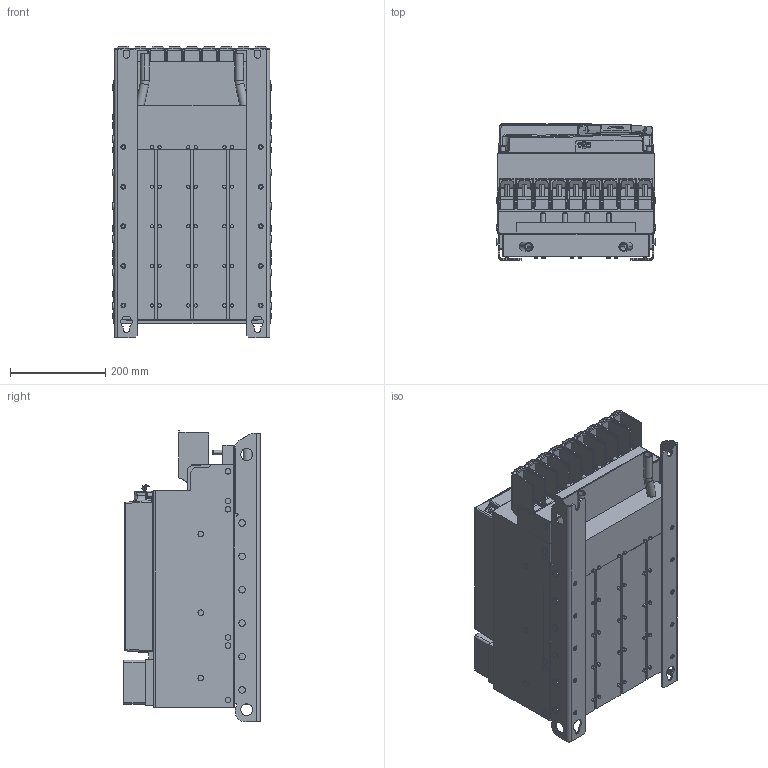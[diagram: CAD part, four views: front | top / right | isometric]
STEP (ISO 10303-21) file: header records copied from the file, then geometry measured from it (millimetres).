
FILE_DESCRIPTION (( 'STEP AP214' ), '1' );
FILE_NAME ('TW0 A1Z.STEP', '2023-11-20T07:52:21', ( '' ), ( '' ), 'SwSTEP 2.0', 'SolidWorks 2022', '' );
FILE_SCHEMA (( 'AUTOMOTIVE_DESIGN' ));
Length unit declared in the file: millimetre
Products named in the file (13): 10045475_000_Gehäusebaugruppe F6-7 (Kundenmodell); Kundenmodell mit Zubehör^10077759_000; TW0 A1Z; Kundenmodell^10059764_000; 10077759_000_ Leistungsteil + BW F6-7 TW0 (Kundenmodell); Kundenmodell^10061502_000; Kundenmodell^10045475_000_Gehäusebaugruppe ohne Lüfterkarte; Kundenmodell^10043622_000; 10061502_000_Deckel (Kundenmodell); 10043622_000_70F6 Klemme (Kundenmodell); 10059764_000_Blindabdeckung (Kundenmodell); Kundenmodell^10044643_000; 10044643_000_Kundenmodell
Assembly tree (12 placements, depth 4):
  TW0 A1Z
    10077759_000_ Leistungsteil + BW F6-7 TW0 (Kundenmodell)
      10043622_000_70F6 Klemme (Kundenmodell)
        Kundenmodell^10043622_000
      Kundenmodell mit Zubehör^10077759_000
    10045475_000_Gehäusebaugruppe F6-7 (Kundenmodell)
      10061502_000_Deckel (Kundenmodell)
        Kundenmodell^10061502_000
      Kundenmodell^10045475_000_Gehäusebaugruppe ohne Lüfterkarte
    10044643_000_Kundenmodell
      10059764_000_Blindabdeckung (Kundenmodell)
        Kundenmodell^10059764_000
      Kundenmodell^10044643_000
Bounding box: 335.4 x 285.9 x 610.76 mm (x, y, z)
Volume: 43641470.4 mm3; surface area: 2205077.1 mm2
Topology: 12 solids, 12 shells, 3272 faces, 8317 edges, 5122 vertices
Faces by surface type: plane 1650, cylinder 1032, bspline 281, sphere 172, torus 75, cone 62
Entity records: 104945 total; most frequent: CARTESIAN_POINT 27909, ORIENTED_EDGE 16414, DIRECTION 15272, EDGE_CURVE 8207, LINE 5200, VECTOR 5200, VERTEX_POINT 5119, AXIS2_PLACEMENT_3D 5036
